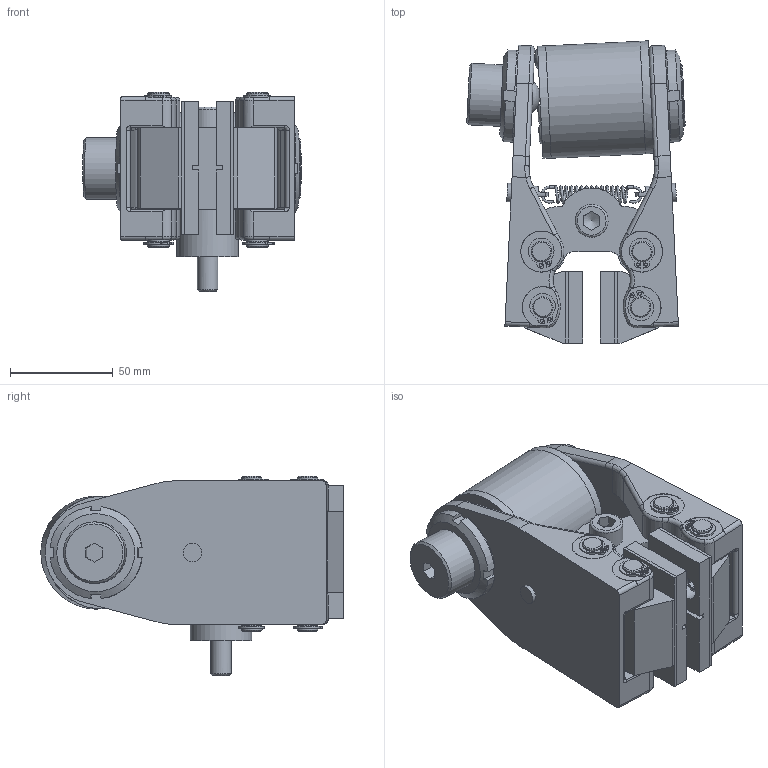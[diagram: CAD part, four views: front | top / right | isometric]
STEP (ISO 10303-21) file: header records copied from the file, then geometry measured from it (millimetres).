
FILE_DESCRIPTION(/* description */ ('','CAx-IF Rec.Pracs.---Representation and Presentation of Product Manufacturing Information (PMI)---4.0---2014-10-13'),/* implementation_level */ '2;1');
FILE_NAME(/* name */ 'X:\INVENTOR\DISEGNI\19_Pinze\STEP x Sito\PNEUM-NEGATIVE\19_36_001_02 PPB-N001_08.stp',/* time_stamp */ '2018-02-20T12:22:45+01:00',/* author */ ('stefano'),/* organization */ (''),/* preprocessor_version */ 'ST-DEVELOPER v17',/* originating_system */ 'Autodesk Inventor 2018',/* authorisation */ '');
FILE_SCHEMA (('AP242_MANAGED_MODEL_BASED_3D_ENGINEERING_MIM_LF { 1 0 10303 442 1 1 4 }'));
Length unit declared in the file: millimetre
Products named in the file (1): 19_36_001_02 PPB-N001_08_Substitute_2
Bounding box: 106.38 x 147.33 x 97.25 mm (x, y, z)
Volume: 479255.9 mm3; surface area: 111763.4 mm2
Topology: 4 solids, 4 shells, 675 faces, 1865 edges, 1222 vertices
Faces by surface type: plane 325, cylinder 225, torus 68, cone 37, bspline 17, sphere 3
Full cylindrical faces by diameter (mm): 1.2 x2, 1.5 x16, 2.5 x2, 4.25 x2, 4.5 x2, 4.917 x1, 6 x3, 6.25 x3, 6.5 x1, 7.4 x2, 7.5 x2, 7.75 x3, 9 x2, 9.5 x8, 10 x19, 10.1 x1, 10.5 x7, 11.445 x1, 12 x4, 15 x1, 16 x1, 28.376 x1, 30 x3, 35 x1, 55 x3
Entity records: 25051 total; most frequent: CARTESIAN_POINT 7051, DIRECTION 3808, ORIENTED_EDGE 3680, EDGE_CURVE 1840, AXIS2_PLACEMENT_3D 1479, VERTEX_POINT 1222, LINE 850, VECTOR 850
